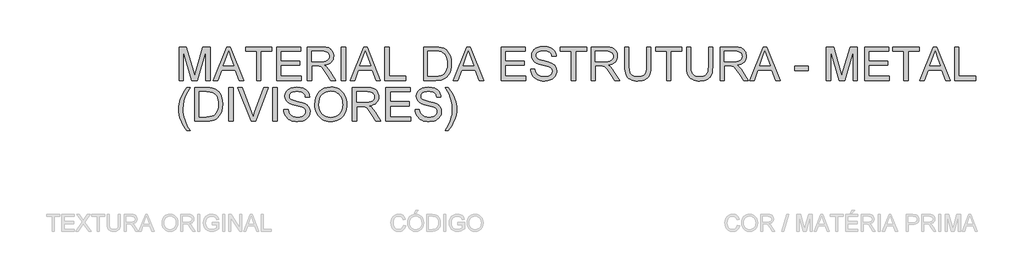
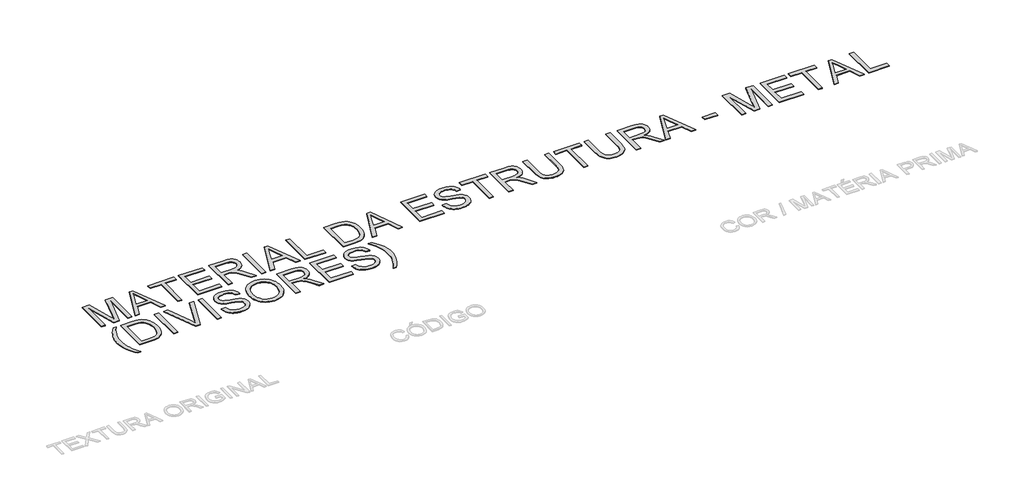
# One storey, part 57 of 67: 1 proxy.
"""IFC4 building model written with IfcOpenShell, lengths in millimetres."""

from ifc_helpers import new_model, si_unit, origin, origin_with_axes, place, context, project, spatial, polyline, outline, extrude, element, save

model = new_model("IFC4")

# Units and contexts
model_context = context("Model", 3, world=origin())
ifc_project = project(units=[si_unit("LENGTHUNIT", "METRE", prefix="MILLI")], contexts=[model_context])

# Site, building, storey
site = spatial("IfcSite", under=ifc_project)
building = spatial("IfcBuilding", under=site)
storey = spatial("IfcBuildingStorey", under=building, Name="Marelli - Linha COLAB - Planta Baixa", Elevation=0.0)

# Proxy
placement = place(None, origin())
element("IfcBuildingElementProxy", 1, Name="600mm Arial", ObjectType="600mm Arial", at=placement, inside=storey, context=model_context, shape_type="SweptSolid", body=[
    extrude(outline(polyline([(21263.2366746, -21064.6418665), (21263.2366746, -20461.9040056), (21392.8782897, -20461.9040056), (21516.1923345, -20886.7341337), (21541.0611573, -20975.4672709), (21567.9901194, -20879.3764938), (21689.244025, -20461.9040056), (21818.8856401, -20461.9040056), (21818.8856401, -21064.6418665), (21743.5434075, -21064.6418665), (21743.5434075, -20537.2462382), (21592.1231783, -21064.6418665), (21489.9991364, -21064.6418665), (21338.5789072, -20537.2462382), (21338.5789072, -21064.6418665), (21263.2366746, -21064.6418665)])), origin_with_axes(), (0.0, 0.0, 1.0), 10.0),
    extrude(outline(polyline([(21880.5426625, -21064.6418665), (22121.1374873, -20461.9040056), (22185.2961073, -20461.9040056), (22425.8909321, -21064.6418665), (22346.2812684, -21064.6418665), (22277.2666061, -20876.286285), (22029.0198358, -20876.286285), (21960.1523263, -21064.6418665), (21880.5426625, -21064.6418665)]), holes=[polyline([(22056.6845618, -20800.9440524), (22249.7490329, -20800.9440524), (22195.4496504, -20652.7611847), (22153.2167973, -20537.2462382), (22115.6928338, -20639.8117385), (22056.6845618, -20800.9440524)])]), origin_with_axes(), (0.0, 0.0, 1.0), 10.0),
    extrude(outline(polyline([(22657.0679779, -21064.6418665), (22657.0679779, -20537.2462382), (22459.2946173, -20537.2462382), (22459.2946173, -20461.9040056), (22930.1835711, -20461.9040056), (22930.1835711, -20537.2462382), (22732.4102105, -20537.2462382), (22732.4102105, -21064.6418665), (22657.0679779, -21064.6418665)])), origin_with_axes(), (0.0, 0.0, 1.0), 10.0),
    extrude(outline(polyline([(23014.9435828, -21064.6418665), (23014.9435828, -20461.9040056), (23448.1614203, -20461.9040056), (23448.1614203, -20537.2462382), (23090.2858154, -20537.2462382), (23090.2858154, -20716.1840407), (23429.3258622, -20716.1840407), (23429.3258622, -20791.5262733), (23090.2858154, -20791.5262733), (23090.2858154, -20989.2996339), (23457.5791994, -20989.2996339), (23457.5791994, -21064.6418665), (23014.9435828, -21064.6418665)])), origin_with_axes(), (0.0, 0.0, 1.0), 10.0),
    extrude(outline(polyline([(23570.5925483, -21064.6418665), (23570.5925483, -20461.9040056), (23830.3172369, -20461.9040056), (23900.1228455, -20465.9691017), (23950.908955, -20478.1643898), (23970.5078682, -20487.8580804), (23988.0282483, -20500.6787679), (24003.470095, -20516.6264524), (24016.8334085, -20535.7011339), (24027.6169495, -20556.8773412), (24035.3194787, -20579.1296034), (24039.9409963, -20602.4579204), (24041.4815022, -20626.8622923), (24038.9293208, -20657.8195622), (24031.2727768, -20686.2384463), (24018.5118701, -20712.1189447), (24000.6466007, -20735.4610572), (23977.4470424, -20755.519823), (23948.6832689, -20771.550281), (23914.3552802, -20783.5524311), (23874.4630764, -20791.5262733), (23899.295111, -20807.7498693), (23917.2845406, -20823.7527361), (23948.14984, -20860.3569946), (23978.3529518, -20901.3022607), (24078.8583129, -21064.6418665), (23991.302398, -21064.6418665), (23912.8699567, -20939.709141), (23856.2161294, -20857.0092685), (23835.1548852, -20832.8946037), (23816.4112975, -20817.9402006), (23780.5795912, -20803.5928028), (23736.8752102, -20800.9440524), (23645.934781, -20800.9440524), (23645.934781, -21064.6418665), (23570.5925483, -21064.6418665)]), holes=[polyline([(23645.934781, -20725.6018198), (23814.5718875, -20725.6018198), (23863.0035522, -20722.9346753), (23900.582698, -20714.9332419), (23928.8728234, -20701.0640907), (23949.437427, -20680.7937928), (23961.9638089, -20656.2744578), (23966.1392696, -20629.6581954), (23964.1481083, -20610.3903759), (23958.1746244, -20592.9067841), (23948.2188179, -20577.20742), (23934.2806888, -20563.2922835), (23916.0383403, -20551.8971387), (23893.1698758, -20543.7577496), (23865.6752952, -20538.8741161), (23833.5545985, -20537.2462382), (23645.934781, -20537.2462382), (23645.934781, -20725.6018198)])]), origin_with_axes(), (0.0, 0.0, 1.0), 10.0),
    extrude(outline(polyline([(24182.7481883, -21064.6418665), (24182.7481883, -20461.9040056), (24258.0904209, -20461.9040056), (24258.0904209, -21064.6418665), (24182.7481883, -21064.6418665)])), origin_with_axes(), (0.0, 0.0, 1.0), 10.0),
    extrude(outline(polyline([(24338.5830015, -21064.6418665), (24579.1778263, -20461.9040056), (24643.3364463, -20461.9040056), (24883.9312711, -21064.6418665), (24804.3216074, -21064.6418665), (24735.3069451, -20876.286285), (24487.0601747, -20876.286285), (24418.1926652, -21064.6418665), (24338.5830015, -21064.6418665)]), holes=[polyline([(24514.7249008, -20800.9440524), (24707.7893718, -20800.9440524), (24653.4899893, -20652.7611847), (24611.2571363, -20537.2462382), (24573.7331728, -20639.8117385), (24514.7249008, -20800.9440524)])]), origin_with_axes(), (0.0, 0.0, 1.0), 10.0),
    extrude(outline(polyline([(24964.4238517, -21064.6418665), (24964.4238517, -20461.9040056), (25039.7660843, -20461.9040056), (25039.7660843, -20989.2996339), (25341.1350147, -20989.2996339), (25341.1350147, -21064.6418665), (24964.4238517, -21064.6418665)])), origin_with_axes(), (0.0, 0.0, 1.0), 10.0),
    extrude(outline(polyline([(25661.3395033, -21064.6418665), (25661.3395033, -20461.9040056), (25869.266407, -20461.9040056), (25931.401676, -20464.0745094), (25976.8351024, -20470.5860207), (26024.880491, -20487.3246515), (26065.4210868, -20513.7017906), (26087.760721, -20535.2596755), (26107.1021169, -20559.6134636), (26123.4452745, -20586.7631548), (26136.7901939, -20616.7087492), (26147.1552691, -20649.1743353), (26154.5588943, -20683.8840015), (26160.4817944, -20760.0355745), (26156.4718806, -20824.7276234), (26144.4421394, -20881.6573621), (26126.121616, -20930.125815), (26103.2393559, -20969.4340062), (26076.8990051, -21000.4648525), (26048.2042095, -21024.1012707), (26015.2603768, -21041.6308477), (25976.1729148, -21054.3411707), (25930.8682471, -21062.0666926), (25879.2727973, -21064.6418665), (25661.3395033, -21064.6418665)]), holes=[polyline([(25736.6817359, -20989.2996339), (25870.002171, -20989.2996339), (25925.1476821, -20986.5773072), (25966.9758649, -20978.4103269), (25998.5401401, -20965.2769396), (26022.8939282, -20947.6553921), (26049.0687321, -20915.0426532), (26068.7320248, -20872.8281942), (26081.0376775, -20820.8280742), (26085.1395618, -20758.8583521), (26083.1300064, -20715.1171829), (26077.1013402, -20676.7470908), (26067.0535632, -20643.7480759), (26052.9866754, -20616.120138), (26036.041111, -20593.2378779), (26017.3573042, -20574.4758962), (25996.9352549, -20559.8341928), (25974.7749632, -20549.3127677), (25931.4384642, -20540.2628706), (25867.9420318, -20537.2462382), (25736.6817359, -20537.2462382), (25736.6817359, -20989.2996339)])]), origin_with_axes(), (0.0, 0.0, 1.0), 10.0),
    extrude(outline(polyline([(26193.8854795, -21064.6418665), (26434.4803044, -20461.9040056), (26498.6389244, -20461.9040056), (26739.2337492, -21064.6418665), (26659.6240854, -21064.6418665), (26590.6094231, -20876.286285), (26342.3626528, -20876.286285), (26273.4951433, -21064.6418665), (26193.8854795, -21064.6418665)]), holes=[polyline([(26370.0273788, -20800.9440524), (26563.0918499, -20800.9440524), (26508.7924674, -20652.7611847), (26466.5596144, -20537.2462382), (26429.0356509, -20639.8117385), (26370.0273788, -20800.9440524)])]), origin_with_axes(), (0.0, 0.0, 1.0), 10.0),
    extrude(outline(polyline([(27055.1708067, -21064.6418665), (27055.1708067, -20461.9040056), (27488.3886442, -20461.9040056), (27488.3886442, -20537.2462382), (27130.5130393, -20537.2462382), (27130.5130393, -20716.1840407), (27469.553086, -20716.1840407), (27469.553086, -20791.5262733), (27130.5130393, -20791.5262733), (27130.5130393, -20989.2996339), (27497.8064233, -20989.2996339), (27497.8064233, -21064.6418665), (27055.1708067, -21064.6418665)])), origin_with_axes(), (0.0, 0.0, 1.0), 10.0),
    extrude(outline(polyline([(27582.5664349, -20857.4507268), (27657.9086676, -20857.4507268), (27666.5538944, -20899.2605156), (27682.1888792, -20932.8665359), (27706.5794555, -20959.5379805), (27741.4914569, -20980.5440424), (27784.1657683, -20994.1740704), (27831.8432749, -20998.717413), (27873.8186105, -20995.2777163), (27910.5700218, -20984.9586264), (27940.3500693, -20968.6246658), (27961.4113136, -20947.1403573), (27973.9376955, -20922.4738695), (27978.1131562, -20896.5933711), (27974.9861592, -20871.3750604), (27965.6051683, -20849.5780522), (27946.548881, -20830.9816173), (27914.3959946, -20815.3650266), (27804.6935836, -20786.5966546), (27732.6806831, -20767.5587613), (27686.6034632, -20749.4405731), (27649.0978938, -20724.0935036), (27622.5184196, -20693.375357), (27606.6810997, -20657.9483209), (27601.4019931, -20618.4745828), (27603.0344694, -20596.0383796), (27607.9318985, -20574.3471375), (27616.0942803, -20553.4008564), (27627.5216147, -20533.1995363), (27642.0851432, -20514.5663132), (27659.656107, -20498.3243232), (27680.2345061, -20484.473566), (27703.8203405, -20473.0140419), (27756.8321361, -20457.6181804), (27815.5093143, -20452.4862266), (27879.0793231, -20457.8573037), (27934.7030807, -20473.9705351), (27959.0384747, -20485.9726852), (27980.3940245, -20500.4948269), (27998.7697302, -20517.5369604), (28014.1655917, -20537.0990854), (28026.4620474, -20558.6109851), (28035.5395356, -20581.5024423), (28041.3980564, -20605.7734569), (28044.0376097, -20631.424029), (27968.6953771, -20631.424029), (27963.6553937, -20607.3829406), (27954.8630141, -20586.4688492), (27942.318238, -20568.6817547), (27926.0210656, -20554.0216572), (27905.6679943, -20542.5621331), (27880.9555212, -20534.3767587), (27851.8836466, -20529.465534), (27818.4523702, -20527.8284592), (27783.9542361, -20529.4471399), (27754.4776913, -20534.3031823), (27730.0227357, -20542.3965862), (27710.5893693, -20553.7273516), (27695.782119, -20567.3481825), (27685.2055116, -20582.3117827), (27678.8595472, -20598.6181521), (27676.7442257, -20616.2672908), (27678.2433448, -20631.4516202), (27682.7407022, -20645.2196038), (27690.2362979, -20657.5712418), (27700.7301318, -20668.5065341), (27717.2480334, -20678.8624123), (27743.2572904, -20689.3286551), (27823.749871, -20710.5922344), (27906.8176255, -20730.7889559), (27957.070306, -20748.4105035), (28000.020529, -20775.7441357), (28016.6258025, -20791.8113819), (28029.9845175, -20809.4789147), (28040.2530237, -20828.6547637), (28047.5876709, -20849.2469584), (28053.4553888, -20894.6803848), (28051.7677301, -20918.2478251), (28046.7047542, -20941.1254867), (28038.2664609, -20963.3133695), (28026.4528503, -20984.8114736), (28011.4708561, -21004.7874659), (27993.5274118, -21022.4090135), (27972.6225174, -21037.6761163), (27948.7561729, -21050.5887743), (27922.6227557, -21060.8572805), (27894.9166429, -21068.1919278), (27834.7863308, -21074.0596456), (27796.2460933, -21072.477753), (27760.9708085, -21067.7320753), (27728.9604764, -21059.8226124), (27700.215097, -21048.7493643), (27674.5599264, -21034.493937), (27651.8202205, -21017.0379364), (27631.9959795, -20996.3813623), (27615.0872033, -20972.5242149), (27601.4663724, -20946.2390464), (27591.5059674, -20918.2984089), (27585.2059883, -20888.7023023), (27582.5664349, -20857.4507268)])), origin_with_axes(), (0.0, 0.0, 1.0), 10.0),
    extrude(outline(polyline([(28317.1532029, -21064.6418665), (28317.1532029, -20537.2462382), (28119.3798423, -20537.2462382), (28119.3798423, -20461.9040056), (28590.2687961, -20461.9040056), (28590.2687961, -20537.2462382), (28392.4954355, -20537.2462382), (28392.4954355, -21064.6418665), (28317.1532029, -21064.6418665)])), origin_with_axes(), (0.0, 0.0, 1.0), 10.0),
    extrude(outline(polyline([(28675.0288078, -21064.6418665), (28675.0288078, -20461.9040056), (28934.7534964, -20461.9040056), (29004.559105, -20465.9691017), (29055.3452144, -20478.1643898), (29074.9441277, -20487.8580804), (29092.4645077, -20500.6787679), (29107.9063545, -20516.6264524), (29121.269668, -20535.7011339), (29132.0532089, -20556.8773412), (29139.7557382, -20579.1296034), (29144.3772558, -20602.4579204), (29145.9177616, -20626.8622923), (29143.3655803, -20657.8195622), (29135.7090363, -20686.2384463), (29122.9481296, -20712.1189447), (29105.0828602, -20735.4610572), (29081.8833019, -20755.519823), (29053.1195284, -20771.550281), (29018.7915397, -20783.5524311), (28978.8993358, -20791.5262733), (29003.7313705, -20807.7498693), (29021.7208001, -20823.7527361), (29052.5860995, -20860.3569946), (29082.7892113, -20901.3022607), (29183.2945724, -21064.6418665), (29095.7386575, -21064.6418665), (29017.3062161, -20939.709141), (28960.6523889, -20857.0092685), (28939.5911446, -20832.8946037), (28920.847557, -20817.9402006), (28885.0158507, -20803.5928028), (28841.3114696, -20800.9440524), (28750.3710404, -20800.9440524), (28750.3710404, -21064.6418665), (28675.0288078, -21064.6418665)]), holes=[polyline([(28750.3710404, -20725.6018198), (28919.008147, -20725.6018198), (28967.4398117, -20722.9346753), (29005.0189575, -20714.9332419), (29033.3090829, -20701.0640907), (29053.8736864, -20680.7937928), (29066.4000684, -20656.2744578), (29070.575529, -20629.6581954), (29068.5843677, -20610.3903759), (29062.6108838, -20592.9067841), (29052.6550773, -20577.20742), (29038.7169482, -20563.2922835), (29020.4745998, -20551.8971387), (28997.6061353, -20543.7577496), (28970.1115547, -20538.8741161), (28937.990858, -20537.2462382), (28750.3710404, -20537.2462382), (28750.3710404, -20725.6018198)])]), origin_with_axes(), (0.0, 0.0, 1.0), 10.0),
    extrude(outline(polyline([(29673.3133899, -20461.9040056), (29748.6556225, -20461.9040056), (29748.6556225, -20809.6260675), (29743.5420628, -20891.0567471), (29737.1501131, -20924.7501393), (29728.2013836, -20953.7622332), (29715.923322, -20979.1920761), (29699.5433762, -21002.1387156), (29679.0615461, -21022.6021515), (29654.4778318, -21040.582384), (29625.7646421, -21055.228686), (29592.8943858, -21065.6903302), (29555.867063, -21071.9673168), (29514.6826736, -21074.0596456), (29474.5145583, -21072.2386297), (29438.1816127, -21066.7755821), (29405.683837, -21057.6705027), (29377.021231, -21044.9233916), (29352.1891963, -21028.7227882), (29331.1831344, -21009.2572322), (29314.0030452, -20986.5267234), (29300.6489288, -20960.5312619), (29290.63794, -20930.3787339), (29283.4872337, -20895.1770255), (29279.19681, -20854.9261367), (29277.7666687, -20809.6260675), (29277.7666687, -20461.9040056), (29353.1089013, -20461.9040056), (29353.1089013, -20806.9773171), (29356.8245095, -20874.6859983), (29367.9713339, -20921.830076), (29376.7361225, -20939.2079018), (29388.1680555, -20954.4796031), (29402.2671329, -20967.64518), (29419.0333549, -20978.7046325), (29459.2796451, -20993.7142179), (29507.6193393, -20998.717413), (29549.1440195, -20996.2434066), (29584.2491589, -20988.8213873), (29612.9347575, -20976.4513552), (29635.2008152, -20959.1333103), (29651.8750667, -20934.7795222), (29663.7852463, -20901.3022607), (29670.931354, -20858.7015256), (29673.3133899, -20806.9773171), (29673.3133899, -20461.9040056)])), origin_with_axes(), (0.0, 0.0, 1.0), 10.0),
    extrude(outline(polyline([(30031.1889948, -21064.6418665), (30031.1889948, -20537.2462382), (29833.4156342, -20537.2462382), (29833.4156342, -20461.9040056), (30304.3045881, -20461.9040056), (30304.3045881, -20537.2462382), (30106.5312274, -20537.2462382), (30106.5312274, -21064.6418665), (30031.1889948, -21064.6418665)])), origin_with_axes(), (0.0, 0.0, 1.0), 10.0),
    extrude(outline(polyline([(30784.611321, -20461.9040056), (30859.9535536, -20461.9040056), (30859.9535536, -20809.6260675), (30854.8399938, -20891.0567471), (30848.4480442, -20924.7501393), (30839.4993146, -20953.7622332), (30827.221253, -20979.1920761), (30810.8413072, -21002.1387156), (30790.3594771, -21022.6021515), (30765.7757628, -21040.582384), (30737.0625731, -21055.228686), (30704.1923168, -21065.6903302), (30667.164994, -21071.9673168), (30625.9806046, -21074.0596456), (30585.8124893, -21072.2386297), (30549.4795437, -21066.7755821), (30516.981768, -21057.6705027), (30488.319162, -21044.9233916), (30463.4871274, -21028.7227882), (30442.4810654, -21009.2572322), (30425.3009763, -20986.5267234), (30411.9468598, -20960.5312619), (30401.935871, -20930.3787339), (30394.7851648, -20895.1770255), (30390.494741, -20854.9261367), (30389.0645997, -20809.6260675), (30389.0645997, -20461.9040056), (30464.4068324, -20461.9040056), (30464.4068324, -20806.9773171), (30468.1224405, -20874.6859983), (30479.269265, -20921.830076), (30488.0340535, -20939.2079018), (30499.4659865, -20954.4796031), (30513.565064, -20967.64518), (30530.3312859, -20978.7046325), (30570.5775762, -20993.7142179), (30618.9172703, -20998.717413), (30660.4419505, -20996.2434066), (30695.5470899, -20988.8213873), (30724.2326885, -20976.4513552), (30746.4987463, -20959.1333103), (30763.1729977, -20934.7795222), (30775.0831773, -20901.3022607), (30782.229285, -20858.7015256), (30784.611321, -20806.9773171), (30784.611321, -20461.9040056)])), origin_with_axes(), (0.0, 0.0, 1.0), 10.0),
    extrude(outline(polyline([(30991.8024606, -21064.6418665), (30991.8024606, -20461.9040056), (31251.5271492, -20461.9040056), (31321.3327578, -20465.9691017), (31372.1188673, -20478.1643898), (31391.7177805, -20487.8580804), (31409.2381606, -20500.6787679), (31424.6800073, -20516.6264524), (31438.0433208, -20535.7011339), (31448.8268618, -20556.8773412), (31456.529391, -20579.1296034), (31461.1509086, -20602.4579204), (31462.6914145, -20626.8622923), (31460.1392331, -20657.8195622), (31452.4826891, -20686.2384463), (31439.7217824, -20712.1189447), (31421.856513, -20735.4610572), (31398.6569547, -20755.519823), (31369.8931812, -20771.550281), (31335.5651925, -20783.5524311), (31295.6729887, -20791.5262733), (31320.5050233, -20807.7498693), (31338.4944529, -20823.7527361), (31369.3597523, -20860.3569946), (31399.5628641, -20901.3022607), (31500.0682252, -21064.6418665), (31412.5123103, -21064.6418665), (31334.079869, -20939.709141), (31277.4260417, -20857.0092685), (31256.3647975, -20832.8946037), (31237.6212098, -20817.9402006), (31201.7895035, -20803.5928028), (31158.0851225, -20800.9440524), (31067.1446933, -20800.9440524), (31067.1446933, -21064.6418665), (30991.8024606, -21064.6418665)]), holes=[polyline([(31067.1446933, -20725.6018198), (31235.7817998, -20725.6018198), (31284.2134645, -20722.9346753), (31321.7926103, -20714.9332419), (31350.0827357, -20701.0640907), (31370.6473393, -20680.7937928), (31383.1737212, -20656.2744578), (31387.3491819, -20629.6581954), (31385.3580206, -20610.3903759), (31379.3845367, -20592.9067841), (31369.4287302, -20577.20742), (31355.4906011, -20563.2922835), (31337.2482526, -20551.8971387), (31314.3797881, -20543.7577496), (31286.8852075, -20538.8741161), (31254.7645108, -20537.2462382), (31067.1446933, -20537.2462382), (31067.1446933, -20725.6018198)])]), origin_with_axes(), (0.0, 0.0, 1.0), 10.0),
    extrude(outline(polyline([(31524.3484369, -21064.6418665), (31764.9432617, -20461.9040056), (31829.1018817, -20461.9040056), (32069.6967065, -21064.6418665), (31990.0870428, -21064.6418665), (31921.0723805, -20876.286285), (31672.8256101, -20876.286285), (31603.9581006, -21064.6418665), (31524.3484369, -21064.6418665)]), holes=[polyline([(31700.4903361, -20800.9440524), (31893.5548072, -20800.9440524), (31839.2554247, -20652.7611847), (31797.0225717, -20537.2462382), (31759.4986082, -20639.8117385), (31700.4903361, -20800.9440524)])]), origin_with_axes(), (0.0, 0.0, 1.0), 10.0),
    extrude(outline(polyline([(32338.5448686, -20885.7040641), (32338.5448686, -20810.3618315), (32573.9893455, -20810.3618315), (32573.9893455, -20885.7040641), (32338.5448686, -20885.7040641)])), origin_with_axes(), (0.0, 0.0, 1.0), 10.0),
    extrude(outline(polyline([(32903.6116132, -21064.6418665), (32903.6116132, -20461.9040056), (33033.2532283, -20461.9040056), (33156.5672731, -20886.7341337), (33181.4360959, -20975.4672709), (33208.365058, -20879.3764938), (33329.6189636, -20461.9040056), (33459.2605787, -20461.9040056), (33459.2605787, -21064.6418665), (33383.9183461, -21064.6418665), (33383.9183461, -20537.2462382), (33232.4981169, -21064.6418665), (33130.374075, -21064.6418665), (32978.9538458, -20537.2462382), (32978.9538458, -21064.6418665), (32903.6116132, -21064.6418665)])), origin_with_axes(), (0.0, 0.0, 1.0), 10.0),
    extrude(outline(polyline([(33591.1094858, -21064.6418665), (33591.1094858, -20461.9040056), (34024.3273233, -20461.9040056), (34024.3273233, -20537.2462382), (33666.4517184, -20537.2462382), (33666.4517184, -20716.1840407), (34005.4917651, -20716.1840407), (34005.4917651, -20791.5262733), (33666.4517184, -20791.5262733), (33666.4517184, -20989.2996339), (34033.7451024, -20989.2996339), (34033.7451024, -21064.6418665), (33591.1094858, -21064.6418665)])), origin_with_axes(), (0.0, 0.0, 1.0), 10.0),
    extrude(outline(polyline([(34297.4429165, -21064.6418665), (34297.4429165, -20537.2462382), (34099.6695559, -20537.2462382), (34099.6695559, -20461.9040056), (34570.5585097, -20461.9040056), (34570.5585097, -20537.2462382), (34372.7851491, -20537.2462382), (34372.7851491, -21064.6418665), (34297.4429165, -21064.6418665)])), origin_with_axes(), (0.0, 0.0, 1.0), 10.0),
    extrude(outline(polyline([(34585.1266367, -21064.6418665), (34825.7214616, -20461.9040056), (34889.8800815, -20461.9040056), (35130.4749064, -21064.6418665), (35050.8652426, -21064.6418665), (34981.8505803, -20876.286285), (34733.60381, -20876.286285), (34664.7363005, -21064.6418665), (34585.1266367, -21064.6418665)]), holes=[polyline([(34761.268536, -20800.9440524), (34954.3330071, -20800.9440524), (34900.0336246, -20652.7611847), (34857.8007716, -20537.2462382), (34820.276808, -20639.8117385), (34761.268536, -20800.9440524)])]), origin_with_axes(), (0.0, 0.0, 1.0), 10.0),
    extrude(outline(polyline([(35210.9674869, -21064.6418665), (35210.9674869, -20461.9040056), (35286.3097195, -20461.9040056), (35286.3097195, -20989.2996339), (35587.67865, -20989.2996339), (35587.67865, -21064.6418665), (35210.9674869, -21064.6418665)])), origin_with_axes(), (0.0, 0.0, 1.0), 10.0),
    extrude(outline(polyline([(21404.5033607, -21966.010797), (21374.0887168, -21926.6566205), (21346.1204881, -21884.0834767), (21320.5986747, -21838.2913653), (21297.5232765, -21789.2802865), (21278.4026098, -21738.1998715), (21264.7449908, -21686.1997514), (21256.5504193, -21633.2799264), (21253.8188955, -21579.4403964), (21255.8606406, -21532.1215748), (21261.9858758, -21485.8144287), (21272.1946012, -21440.518958), (21286.4868167, -21396.2351629), (21308.2102485, -21345.4490534), (21335.1208164, -21294.7733086), (21367.2185205, -21244.2079283), (21404.5033607, -21193.7529127), (21461.0100352, -21193.7529127), (21416.6802548, -21265.3795372), (21390.5238449, -21313.0938319), (21366.4643624, -21369.7476592), (21348.1438391, -21428.7559312), (21333.9068059, -21504.134952), (21329.1611281, -21579.8818548), (21331.2212673, -21628.1801623), (21337.4016848, -21676.4692727), (21347.7023807, -21724.749186), (21362.1233549, -21773.0199023), (21380.6646075, -21821.2814216), (21403.3261384, -21869.5337437), (21430.1079476, -21917.7768689), (21461.0100352, -21966.010797), (21404.5033607, -21966.010797)])), origin_with_axes(), (0.0, 0.0, 1.0), 10.0),
    extrude(outline(polyline([(21545.7700469, -21796.4907736), (21545.7700469, -21193.7529127), (21753.6969506, -21193.7529127), (21815.8322195, -21195.9234165), (21861.2656459, -21202.4349278), (21909.3110345, -21219.1735586), (21949.8516304, -21245.5506976), (21972.1912645, -21267.1085825), (21991.5326604, -21291.4623706), (22007.8758181, -21318.6120619), (22021.2207375, -21348.5576563), (22031.5858127, -21381.0232424), (22038.9894378, -21415.7329086), (22044.9123379, -21491.8844816), (22040.9024242, -21556.5765304), (22028.872683, -21613.5062692), (22010.5521596, -21661.9747221), (21987.6698995, -21701.2829133), (21961.3295486, -21732.3137595), (21932.634753, -21755.9501777), (21899.6909203, -21773.4797548), (21860.6034584, -21786.1900777), (21815.2987907, -21793.9155996), (21763.7033408, -21796.4907736), (21545.7700469, -21796.4907736)]), holes=[polyline([(21621.1122795, -21721.148541), (21754.4327146, -21721.148541), (21809.5782256, -21718.4262142), (21851.4064085, -21710.2592339), (21882.9706837, -21697.1258467), (21907.3244717, -21679.5042991), (21933.4992757, -21646.8915603), (21953.1625683, -21604.6771013), (21965.4682211, -21552.6769813), (21969.5701053, -21490.7072592), (21967.5605499, -21446.96609), (21961.5318837, -21408.5959979), (21951.4841067, -21375.5969829), (21937.417219, -21347.9690451), (21920.4716545, -21325.086785), (21901.7878477, -21306.3248032), (21881.3657985, -21291.6830998), (21859.2055068, -21281.1616748), (21815.8690077, -21272.1117777), (21752.3725754, -21269.0951453), (21621.1122795, -21269.0951453), (21621.1122795, -21721.148541)])]), origin_with_axes(), (0.0, 0.0, 1.0), 10.0),
    extrude(outline(polyline([(22157.9256869, -21796.4907736), (22157.9256869, -21193.7529127), (22233.2679195, -21193.7529127), (22233.2679195, -21796.4907736), (22157.9256869, -21796.4907736)])), origin_with_axes(), (0.0, 0.0, 1.0), 10.0),
    extrude(outline(polyline([(22562.0072704, -21796.4907736), (22322.1482095, -21193.7529127), (22402.7879428, -21193.7529127), (22563.3316455, -21628.0008198), (22595.8524139, -21725.8574305), (22627.9317239, -21628.0008198), (22788.916885, -21193.7529127), (22869.5566183, -21193.7529127), (22639.8511005, -21796.4907736), (22562.0072704, -21796.4907736)])), origin_with_axes(), (0.0, 0.0, 1.0), 10.0),
    extrude(outline(polyline([(22949.0191293, -21796.4907736), (22949.0191293, -21193.7529127), (23024.3613619, -21193.7529127), (23024.3613619, -21796.4907736), (22949.0191293, -21796.4907736)])), origin_with_axes(), (0.0, 0.0, 1.0), 10.0),
    extrude(outline(polyline([(23146.7924899, -21589.2996339), (23222.1347225, -21589.2996339), (23230.7799494, -21631.1094227), (23246.4149342, -21664.7154429), (23270.8055105, -21691.3868876), (23305.7175118, -21712.3929495), (23348.3918233, -21726.0229774), (23396.0693298, -21730.5663201), (23438.0446655, -21727.1266234), (23474.7960768, -21716.8075334), (23504.5761243, -21700.4735729), (23525.6373685, -21678.9892643), (23538.1637505, -21654.3227766), (23542.3392111, -21628.4422782), (23539.2122142, -21603.2239674), (23529.8312233, -21581.4269592), (23510.7749359, -21562.8305244), (23478.6220495, -21547.2139337), (23368.9196386, -21518.4455616), (23296.906738, -21499.4076684), (23250.8295181, -21481.2894801), (23213.3239487, -21455.9424107), (23186.7444746, -21425.2242641), (23170.9071547, -21389.7972279), (23165.628048, -21350.3234899), (23167.2605244, -21327.8872867), (23172.1579535, -21306.1960445), (23180.3203352, -21285.2497634), (23191.7476697, -21265.0484434), (23206.3111982, -21246.4152203), (23223.882162, -21230.1732302), (23244.4605611, -21216.3224731), (23268.0463955, -21204.862949), (23321.058191, -21189.4670875), (23379.7353692, -21184.3351336), (23443.305378, -21189.7062108), (23498.9291357, -21205.8194421), (23523.2645297, -21217.8215922), (23544.6200795, -21232.343734), (23562.9957851, -21249.3858674), (23578.3916466, -21268.9479925), (23590.6881023, -21290.4598922), (23599.7655906, -21313.3513493), (23605.6241113, -21337.622364), (23608.2636646, -21363.2729361), (23532.921432, -21363.2729361), (23527.8814487, -21339.2318477), (23519.089069, -21318.3177563), (23506.544293, -21300.5306618), (23490.2471206, -21285.8705643), (23469.8940492, -21274.4110401), (23445.1815762, -21266.2256658), (23416.1097015, -21261.3144411), (23382.6784252, -21259.6773662), (23348.1802911, -21261.296047), (23318.7037462, -21266.1520894), (23294.2487906, -21274.2454933), (23274.8154242, -21285.5762587), (23260.0081739, -21299.1970896), (23249.4315665, -21314.1606897), (23243.0856021, -21330.4670592), (23240.9702807, -21348.1161979), (23242.4693998, -21363.3005272), (23246.9667572, -21377.0685109), (23254.4623528, -21389.4201489), (23264.9561867, -21400.3554412), (23281.4740883, -21410.7113194), (23307.4833454, -21421.1775621), (23387.9759259, -21442.4411414), (23471.0436804, -21462.637863), (23521.296361, -21480.2594105), (23564.2465839, -21507.5930428), (23580.8518575, -21523.6602889), (23594.2105724, -21541.3278217), (23604.4790786, -21560.5036707), (23611.8137259, -21581.0958654), (23617.6814437, -21626.5292918), (23615.9937851, -21650.0967321), (23610.9308091, -21672.9743937), (23602.4925158, -21695.1622766), (23590.6789053, -21716.6603807), (23575.696911, -21736.636373), (23557.7534667, -21754.2579206), (23536.8485723, -21769.5250234), (23512.9822279, -21782.4376814), (23486.8488107, -21792.7061876), (23459.1426979, -21800.0408349), (23399.0123858, -21805.9085527), (23360.4721483, -21804.3266601), (23325.1968635, -21799.5809824), (23293.1865314, -21791.6715195), (23264.441152, -21780.5982714), (23238.7859813, -21766.3428441), (23216.0462755, -21748.8868434), (23196.2220345, -21728.2302694), (23179.3132583, -21704.373122), (23165.6924274, -21678.0879535), (23155.7320224, -21650.1473159), (23149.4320432, -21620.5512094), (23146.7924899, -21589.2996339)])), origin_with_axes(), (0.0, 0.0, 1.0), 10.0),
    extrude(outline(polyline([(23702.4414554, -21503.0680943), (23707.4630446, -21432.3703718), (23722.5278123, -21369.7844474), (23747.6357585, -21315.310321), (23763.9559235, -21291.115182), (23782.7868832, -21268.9479925), (23825.8750618, -21231.9298668), (23874.7941702, -21205.4883484), (23929.5442081, -21189.6234373), (23990.1251756, -21184.3351336), (24030.6749686, -21186.8183371), (24069.1830164, -21194.2679475), (24105.6493192, -21206.6839648), (24140.0738769, -21224.0663891), (24171.4909993, -21245.8909885), (24198.9349961, -21271.6335311), (24222.4058674, -21301.2940169), (24241.9036131, -21334.8724461), (24257.2258982, -21371.6054633), (24268.1703876, -21410.7297135), (24274.7370812, -21452.2451966), (24276.9259791, -21496.1519127), (24274.6221181, -21540.638043), (24267.7105351, -21582.7145462), (24256.1912301, -21622.3814223), (24240.0642032, -21659.6386714), (24219.7111318, -21693.5022091), (24195.5136935, -21722.987951), (24167.4718885, -21748.0958971), (24135.5857165, -21768.8260476), (24101.1105751, -21785.0496436), (24065.3018614, -21796.6379264), (24028.1595754, -21803.5908961), (23989.6837172, -21805.9085527), (23948.4257515, -21803.3471743), (23909.4118659, -21795.6630391), (23872.6420605, -21782.8561472), (23838.1163352, -21764.9264984), (23806.736001, -21742.5684702), (23779.4023688, -21716.4764397), (23756.1154385, -21686.6504069), (23736.8752102, -21653.0903719), (23721.8104425, -21617.1437024), (23711.0498941, -21580.1577663), (23704.5935651, -21542.1325636), (23702.4414554, -21503.0680943)]), holes=[polyline([(23777.783688, -21503.8038582), (23781.5498799, -21553.7530361), (23792.8484557, -21598.0920136), (23811.6794154, -21636.8207906), (23838.0427588, -21669.9393673), (23870.0898791, -21696.4636591), (23905.9721692, -21715.4095819), (23945.6896291, -21726.7771355), (23989.2422589, -21730.5663201), (24033.5398496, -21726.7403473), (24073.726359, -21715.2624291), (24109.8017872, -21696.1325653), (24141.7661341, -21669.3507561), (24167.9363395, -21635.5332037), (24186.6293434, -21595.2961104), (24197.8451457, -21548.6394764), (24201.5837465, -21495.5633015), (24199.9834598, -21461.0835616), (24195.1825998, -21428.8662958), (24187.1811664, -21398.9115044), (24175.9791596, -21371.2191872), (24161.7007397, -21346.1526277), (24144.4700667, -21324.0751095), (24124.2871408, -21304.9866325), (24101.1519618, -21288.8871967), (24075.7818997, -21276.1078959), (24048.8943244, -21266.9798238), (24020.4892358, -21261.5029806), (23990.566634, -21259.6773662), (23948.526919, -21263.1952378), (23909.5222305, -21273.7488526), (23873.5525684, -21291.3382105), (23840.6179328, -21315.9633115), (23813.1279507, -21348.8105751), (23793.4922492, -21391.0664208), (23781.7108283, -21442.7308485), (23777.783688, -21503.8038582)])]), origin_with_axes(), (0.0, 0.0, 1.0), 10.0),
    extrude(outline(polyline([(24380.5215489, -21796.4907736), (24380.5215489, -21193.7529127), (24640.2462375, -21193.7529127), (24710.0518461, -21197.8180088), (24760.8379555, -21210.0132969), (24780.4368688, -21219.7069875), (24797.9572488, -21232.527675), (24813.3990956, -21248.4753595), (24826.7624091, -21267.5500409), (24837.5459501, -21288.7262483), (24845.2484793, -21310.9785105), (24849.8699969, -21334.3068275), (24851.4105027, -21358.7111993), (24848.8583214, -21389.6684692), (24841.2017774, -21418.0873534), (24828.4408707, -21443.9678517), (24810.5756013, -21467.3099643), (24787.376043, -21487.3687301), (24758.6122695, -21503.399188), (24724.2842808, -21515.4013381), (24684.3920769, -21523.3751804), (24709.2241116, -21539.5987764), (24727.2135412, -21555.6016432), (24758.0788406, -21592.2059017), (24788.2819524, -21633.1511677), (24888.7873135, -21796.4907736), (24801.2313986, -21796.4907736), (24722.7989572, -21671.558048), (24666.14513, -21588.8581755), (24645.0838858, -21564.7435107), (24626.3402981, -21549.7891076), (24590.5085918, -21535.4417098), (24546.8042107, -21532.7929595), (24455.8637815, -21532.7929595), (24455.8637815, -21796.4907736), (24380.5215489, -21796.4907736)]), holes=[polyline([(24455.8637815, -21457.4507268), (24624.5008881, -21457.4507268), (24672.9325528, -21454.7835824), (24710.5116986, -21446.782149), (24738.801824, -21432.9129978), (24759.3664276, -21412.6426998), (24771.8928095, -21388.1233649), (24776.0682701, -21361.5071025), (24774.0771088, -21342.239283), (24768.1036249, -21324.7556912), (24758.1478184, -21309.056327), (24744.2096894, -21295.1411906), (24725.9673409, -21283.7460458), (24703.0988764, -21275.6066566), (24675.6042958, -21270.7230231), (24643.4835991, -21269.0951453), (24455.8637815, -21269.0951453), (24455.8637815, -21457.4507268)])]), origin_with_axes(), (0.0, 0.0, 1.0), 10.0),
    extrude(outline(polyline([(24983.2594098, -21796.4907736), (24983.2594098, -21193.7529127), (25416.4772473, -21193.7529127), (25416.4772473, -21269.0951453), (25058.6016424, -21269.0951453), (25058.6016424, -21448.0329478), (25397.6416892, -21448.0329478), (25397.6416892, -21523.3751804), (25058.6016424, -21523.3751804), (25058.6016424, -21721.148541), (25425.8950264, -21721.148541), (25425.8950264, -21796.4907736), (24983.2594098, -21796.4907736)])), origin_with_axes(), (0.0, 0.0, 1.0), 10.0),
    extrude(outline(polyline([(25510.6550381, -21589.2996339), (25585.9972707, -21589.2996339), (25594.6424976, -21631.1094227), (25610.2774824, -21664.7154429), (25634.6680587, -21691.3868876), (25669.58006, -21712.3929495), (25712.2543715, -21726.0229774), (25759.931878, -21730.5663201), (25801.9072137, -21727.1266234), (25838.658625, -21716.8075334), (25868.4386725, -21700.4735729), (25889.4999167, -21678.9892643), (25902.0262987, -21654.3227766), (25906.2017593, -21628.4422782), (25903.0747624, -21603.2239674), (25893.6937715, -21581.4269592), (25874.6374841, -21562.8305244), (25842.4845978, -21547.2139337), (25732.7821868, -21518.4455616), (25660.7692862, -21499.4076684), (25614.6920663, -21481.2894801), (25577.1864969, -21455.9424107), (25550.6070228, -21425.2242641), (25534.7697029, -21389.7972279), (25529.4905963, -21350.3234899), (25531.1230726, -21327.8872867), (25536.0205017, -21306.1960445), (25544.1828834, -21285.2497634), (25555.6102179, -21265.0484434), (25570.1737464, -21246.4152203), (25587.7447102, -21230.1732302), (25608.3231093, -21216.3224731), (25631.9089437, -21204.862949), (25684.9207392, -21189.4670875), (25743.5979174, -21184.3351336), (25807.1679262, -21189.7062108), (25862.7916839, -21205.8194421), (25887.1270779, -21217.8215922), (25908.4826277, -21232.343734), (25926.8583333, -21249.3858674), (25942.2541948, -21268.9479925), (25954.5506505, -21290.4598922), (25963.6281388, -21313.3513493), (25969.4866595, -21337.622364), (25972.1262129, -21363.2729361), (25896.7839802, -21363.2729361), (25891.7439969, -21339.2318477), (25882.9516172, -21318.3177563), (25870.4068412, -21300.5306618), (25854.1096688, -21285.8705643), (25833.7565974, -21274.4110401), (25809.0441244, -21266.2256658), (25779.9722497, -21261.3144411), (25746.5409734, -21259.6773662), (25712.0428393, -21261.296047), (25682.5662944, -21266.1520894), (25658.1113388, -21274.2454933), (25638.6779724, -21285.5762587), (25623.8707221, -21299.1970896), (25613.2941148, -21314.1606897), (25606.9481503, -21330.4670592), (25604.8328289, -21348.1161979), (25606.331948, -21363.3005272), (25610.8293054, -21377.0685109), (25618.324901, -21389.4201489), (25628.818735, -21400.3554412), (25645.3366365, -21410.7113194), (25671.3458936, -21421.1775621), (25751.8384741, -21442.4411414), (25834.9062287, -21462.637863), (25885.1589092, -21480.2594105), (25928.1091321, -21507.5930428), (25944.7144057, -21523.6602889), (25958.0731206, -21541.3278217), (25968.3416268, -21560.5036707), (25975.6762741, -21581.0958654), (25981.5439919, -21626.5292918), (25979.8563333, -21650.0967321), (25974.7933573, -21672.9743937), (25966.3550641, -21695.1622766), (25954.5414535, -21716.6603807), (25939.5594592, -21736.636373), (25921.6160149, -21754.2579206), (25900.7111205, -21769.5250234), (25876.8447761, -21782.4376814), (25850.7113589, -21792.7061876), (25823.0052461, -21800.0408349), (25762.874934, -21805.9085527), (25724.3346965, -21804.3266601), (25689.0594117, -21799.5809824), (25657.0490796, -21791.6715195), (25628.3037002, -21780.5982714), (25602.6485295, -21766.3428441), (25579.9088237, -21748.8868434), (25560.0845827, -21728.2302694), (25543.1758065, -21704.373122), (25529.5549756, -21678.0879535), (25519.5945706, -21650.1473159), (25513.2945914, -21620.5512094), (25510.6550381, -21589.2996339)])), origin_with_axes(), (0.0, 0.0, 1.0), 10.0),
    extrude(outline(polyline([(26103.9751199, -21966.010797), (26047.4684455, -21966.010797), (26078.3705331, -21917.7768689), (26105.1523423, -21869.5337437), (26127.8138732, -21821.2814216), (26146.3551258, -21773.0199023), (26160.7761, -21724.749186), (26171.0767958, -21676.4692727), (26177.2572134, -21628.1801623), (26179.3173525, -21579.8818548), (26174.5716748, -21504.686775), (26160.3346416, -21430.0803064), (26142.345212, -21370.9616698), (26118.3960941, -21314.2710543), (26092.1293197, -21266.0417248), (26047.4684455, -21193.7529127), (26103.9751199, -21193.7529127), (26141.2599601, -21244.2079283), (26173.3576642, -21294.7733086), (26200.2682322, -21345.4490534), (26221.991664, -21396.2351629), (26236.2838795, -21440.518958), (26246.4926049, -21485.8144287), (26252.6178401, -21532.1215748), (26254.6595851, -21579.4403964), (26251.9142658, -21633.2799264), (26243.6783076, -21686.1997514), (26229.9517106, -21738.1998715), (26210.7344749, -21789.2802865), (26187.5900989, -21838.2913653), (26162.0820811, -21884.0834767), (26134.2104214, -21926.6566205), (26103.9751199, -21966.010797)])), origin_with_axes(), (0.0, 0.0, 1.0), 10.0),
])

save(model, "model.ifc")
